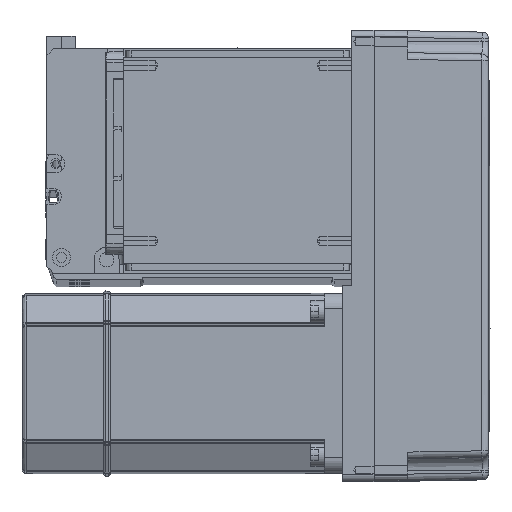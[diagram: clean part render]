
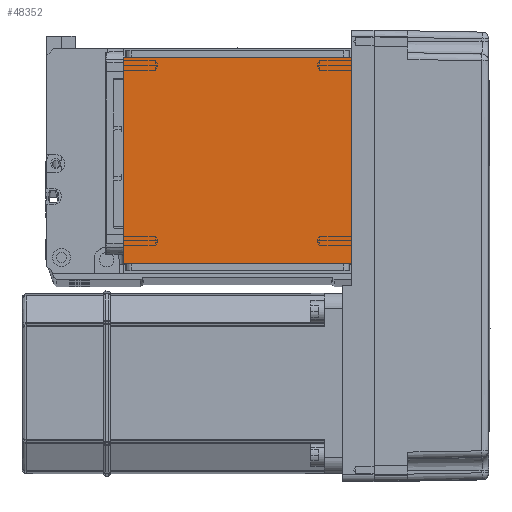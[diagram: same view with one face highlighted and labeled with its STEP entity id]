
A CAD part, top view. The second image highlights one B-rep face of the part: STEP entity #48352.
In plain terms, the highlighted planar face has unit normal (0, 0, 1).
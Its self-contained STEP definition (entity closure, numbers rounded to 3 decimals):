
#477 = CARTESIAN_POINT ( 'NONE',  ( -70.004, 20., 115. ) ) ;
#1206 = VECTOR ( 'NONE', #38393, 1000. ) ;
#2900 = VERTEX_POINT ( 'NONE', #46664 ) ;
#4479 = LINE ( 'NONE', #40479, #52405 ) ;
#6505 = ORIENTED_EDGE ( 'NONE', *, *, #14990, .T. ) ;
#11272 = CARTESIAN_POINT ( 'NONE',  ( -50.5, 20., 115. ) ) ;
#11526 = EDGE_CURVE ( 'NONE', #2900, #52135, #34413, .T. ) ;
#12786 = DIRECTION ( 'NONE',  ( 0., 0., 1. ) ) ;
#13275 = ORIENTED_EDGE ( 'NONE', *, *, #32911, .T. ) ;
#14990 = EDGE_CURVE ( 'NONE', #2900, #40667, #4479, .T. ) ;
#17087 = LINE ( 'NONE', #47611, #36316 ) ;
#17320 = DIRECTION ( 'NONE',  ( 0., -1., 0. ) ) ;
#17486 = DIRECTION ( 'NONE',  ( 1., 0., 0. ) ) ;
#17790 = LINE ( 'NONE', #477, #49562 ) ;
#20403 = EDGE_LOOP ( 'NONE', ( #27646, #6505, #31714, #13275 ) ) ;
#24534 = VERTEX_POINT ( 'NONE', #54385 ) ;
#27646 = ORIENTED_EDGE ( 'NONE', *, *, #11526, .F. ) ;
#29081 = CARTESIAN_POINT ( 'NONE',  ( -70.004, 111.5, 115. ) ) ;
#31714 = ORIENTED_EDGE ( 'NONE', *, *, #33444, .F. ) ;
#32911 = EDGE_CURVE ( 'NONE', #24534, #52135, #17087, .T. ) ;
#33444 = EDGE_CURVE ( 'NONE', #24534, #40667, #17790, .T. ) ;
#33487 = DIRECTION ( 'NONE',  ( -1., 0., 0. ) ) ;
#34413 = LINE ( 'NONE', #29081, #1206 ) ;
#36316 = VECTOR ( 'NONE', #57055, 1000. ) ;
#38393 = DIRECTION ( 'NONE',  ( 1., 0., 0. ) ) ;
#40479 = CARTESIAN_POINT ( 'NONE',  ( -50.5, 122., 115. ) ) ;
#40667 = VERTEX_POINT ( 'NONE', #11272 ) ;
#44093 = CARTESIAN_POINT ( 'NONE',  ( 50.5, 111.5, 115. ) ) ;
#46664 = CARTESIAN_POINT ( 'NONE',  ( -50.5, 111.5, 115. ) ) ;
#47611 = CARTESIAN_POINT ( 'NONE',  ( 50.5, 122., 115. ) ) ;
#48352 = ADVANCED_FACE ( 'NONE', ( #57252 ), #59620, .T. ) ;
#49562 = VECTOR ( 'NONE', #33487, 1000. ) ;
#50747 = CARTESIAN_POINT ( 'NONE',  ( 0., 0., 115. ) ) ;
#52135 = VERTEX_POINT ( 'NONE', #44093 ) ;
#52405 = VECTOR ( 'NONE', #17320, 1000. ) ;
#54385 = CARTESIAN_POINT ( 'NONE',  ( 50.5, 20., 115. ) ) ;
#55309 = AXIS2_PLACEMENT_3D ( 'NONE', #50747, #12786, #17486 ) ;
#57055 = DIRECTION ( 'NONE',  ( 0., 1., 0. ) ) ;
#57252 = FACE_OUTER_BOUND ( 'NONE', #20403, .T. ) ;
#59620 = PLANE ( 'NONE',  #55309 ) ;
